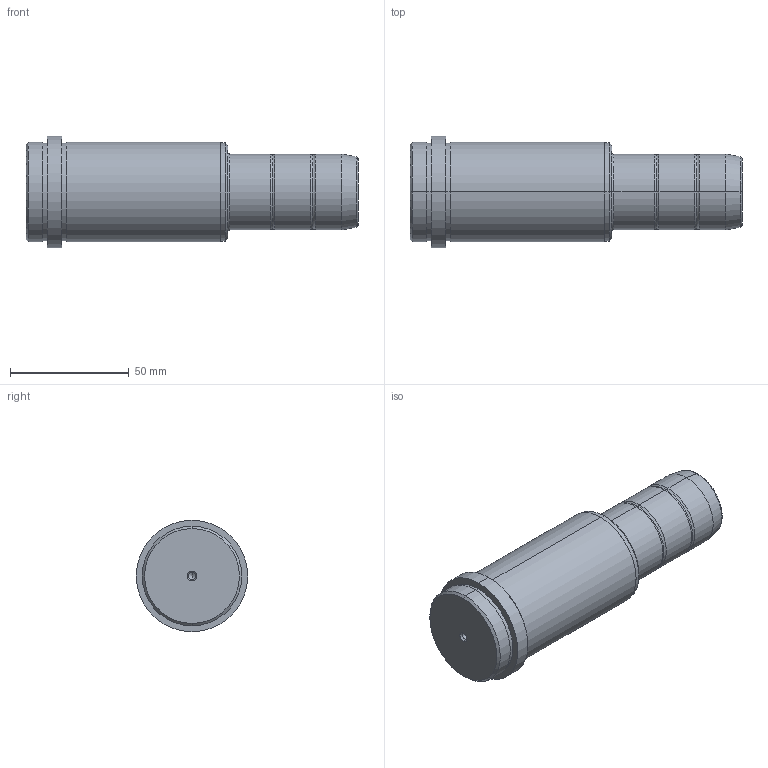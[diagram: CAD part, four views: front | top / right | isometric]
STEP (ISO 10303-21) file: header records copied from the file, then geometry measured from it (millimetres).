
FILE_DESCRIPTION( ( 'STEP AP203' ), '1' );
FILE_NAME( 'C:/Projects/D03 - 32x76x55.step', '2003-01-03T23:18:24', ( ' ' ), ( ' ' ), 'XStep 1.0', ' ', ' ' );
FILE_SCHEMA( ( 'CONFIG_CONTROL_DESIGN' ) );
Length unit declared in the file: metre
Products named in the file (1): 1
Bounding box: 140 x 47 x 47 mm (x, y, z)
Volume: 163191.2 mm3; surface area: 20284.4 mm2
Topology: 1 solids, 1 shells, 56 faces, 113 edges, 64 vertices
Faces by surface type: revolution 36, bspline 20
Entity records: 1691 total; most frequent: CARTESIAN_POINT 513, ORIENTED_EDGE 220, DIRECTION 218, EDGE_CURVE 110, AXIS2_PLACEMENT_3D 73, CIRCLE 72, EDGE_LOOP 64, VERTEX_POINT 64
